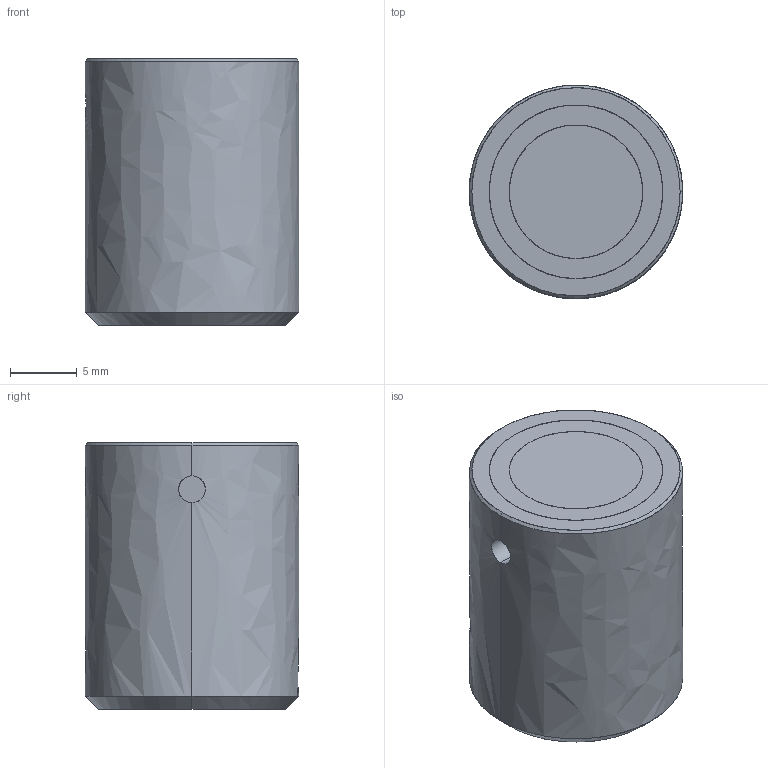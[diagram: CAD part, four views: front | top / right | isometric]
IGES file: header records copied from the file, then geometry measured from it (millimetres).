
Global section: file name: E:\UnigraphicsGraphicData\MISUMI_PRESS-PARTS\IGES\3d_mg16_00554_r00.igs; native system: NX V5.0; preprocessor: UGS NX IGES V5.0; author: MISUMI; date: 20110105.161400; units: millimetre
Bounding box: 16 x 16 x 20 mm (x, y, z)
Surface area: 2899.1 mm2 (no closed solid volume)
Topology: 0 solids, 0 shells, 35 faces, 296 edges, 296 vertices
Faces by surface type: bspline 35
